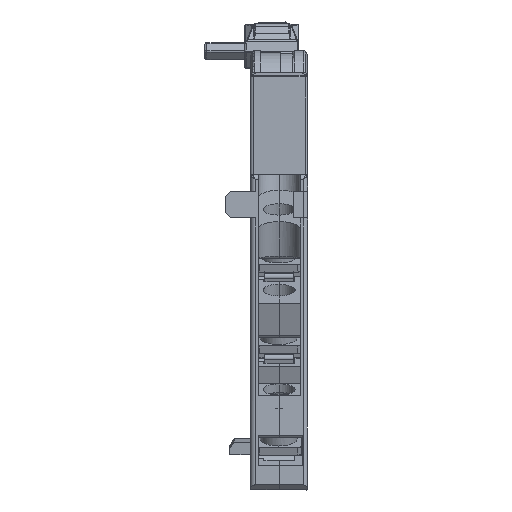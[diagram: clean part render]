
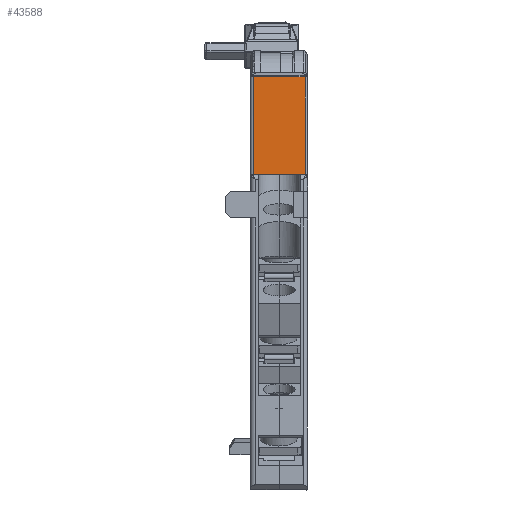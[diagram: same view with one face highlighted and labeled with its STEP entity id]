
A CAD part, front view. The second image highlights one B-rep face of the part: STEP entity #43588.
In plain terms, the highlighted planar face has unit normal (0, -1, 0) as drawn and (1, 0, 0) by its records, which use the part's own axes.
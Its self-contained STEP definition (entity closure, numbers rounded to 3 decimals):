
#799 = CARTESIAN_POINT ( 'NONE',  ( 64.355, 49.5, -27.578 ) ) ;
#1475 = LINE ( 'NONE', #55366, #24817 ) ;
#2052 = VERTEX_POINT ( 'NONE', #56118 ) ;
#2495 = CARTESIAN_POINT ( 'NONE',  ( 64.355, 64.856, -31.656 ) ) ;
#4331 = EDGE_CURVE ( 'NONE', #44131, #12284, #1475, .T. ) ;
#5529 = ORIENTED_EDGE ( 'NONE', *, *, #10718, .F. ) ;
#7066 = EDGE_CURVE ( 'NONE', #34011, #2052, #19280, .T. ) ;
#7268 = VECTOR ( 'NONE', #46601, 1000. ) ;
#8058 = CARTESIAN_POINT ( 'NONE',  ( 64.355, 64.856, -23.5 ) ) ;
#9347 = CARTESIAN_POINT ( 'NONE',  ( 64.355, 48.519, -27.578 ) ) ;
#10016 = EDGE_LOOP ( 'NONE', ( #36718, #5529, #57997, #49365, #21191, #33197 ) ) ;
#10718 = EDGE_CURVE ( 'NONE', #36913, #34011, #69066, .T. ) ;
#12284 = VERTEX_POINT ( 'NONE', #799 ) ;
#12784 = VECTOR ( 'NONE', #14039, 1000. ) ;
#13956 = VECTOR ( 'NONE', #18254, 1000. ) ;
#14039 = DIRECTION ( 'NONE',  ( 0., 0., -1. ) ) ;
#14842 = CARTESIAN_POINT ( 'NONE',  ( 64.355, 48.519, -23.5 ) ) ;
#16526 = DIRECTION ( 'NONE',  ( 0., 1., 0. ) ) ;
#16639 = EDGE_CURVE ( 'NONE', #2052, #44131, #50443, .T. ) ;
#18254 = DIRECTION ( 'NONE',  ( 0., -1., 0. ) ) ;
#18644 = CARTESIAN_POINT ( 'NONE',  ( 64.355, 48.519, -23.5 ) ) ;
#19280 = LINE ( 'NONE', #45877, #12784 ) ;
#19809 = PLANE ( 'NONE',  #51259 ) ;
#20504 = FACE_OUTER_BOUND ( 'NONE', #10016, .T. ) ;
#21191 = ORIENTED_EDGE ( 'NONE', *, *, #4331, .F. ) ;
#22471 = LINE ( 'NONE', #23502, #13956 ) ;
#23125 = VECTOR ( 'NONE', #16526, 1000. ) ;
#23502 = CARTESIAN_POINT ( 'NONE',  ( 64.355, 49.5, -27.578 ) ) ;
#23885 = DIRECTION ( 'NONE',  ( 0., 0., 1. ) ) ;
#24817 = VECTOR ( 'NONE', #23885, 1000. ) ;
#26095 = DIRECTION ( 'NONE',  ( 1., 0., 0. ) ) ;
#30665 = CARTESIAN_POINT ( 'NONE',  ( 64.355, 49.5, -14.28 ) ) ;
#33197 = ORIENTED_EDGE ( 'NONE', *, *, #16639, .F. ) ;
#34011 = VERTEX_POINT ( 'NONE', #8058 ) ;
#35418 = DIRECTION ( 'NONE',  ( 0., -1., 0. ) ) ;
#35698 = EDGE_CURVE ( 'NONE', #12284, #39413, #22471, .T. ) ;
#35916 = DIRECTION ( 'NONE',  ( 0., 1., 0. ) ) ;
#36718 = ORIENTED_EDGE ( 'NONE', *, *, #7066, .F. ) ;
#36913 = VERTEX_POINT ( 'NONE', #14842 ) ;
#38414 = VECTOR ( 'NONE', #35418, 1000. ) ;
#39413 = VERTEX_POINT ( 'NONE', #9347 ) ;
#43588 = ADVANCED_FACE ( 'NONE', ( #20504 ), #19809, .T. ) ;
#43852 = LINE ( 'NONE', #18644, #7268 ) ;
#44131 = VERTEX_POINT ( 'NONE', #48360 ) ;
#45877 = CARTESIAN_POINT ( 'NONE',  ( 64.355, 64.856, -23.5 ) ) ;
#46601 = DIRECTION ( 'NONE',  ( 0., 0., -1. ) ) ;
#48360 = CARTESIAN_POINT ( 'NONE',  ( 64.355, 49.5, -31.656 ) ) ;
#49365 = ORIENTED_EDGE ( 'NONE', *, *, #35698, .F. ) ;
#50443 = LINE ( 'NONE', #2495, #38414 ) ;
#51259 = AXIS2_PLACEMENT_3D ( 'NONE', #30665, #26095, #35916 ) ;
#55366 = CARTESIAN_POINT ( 'NONE',  ( 64.355, 49.5, -31.656 ) ) ;
#56118 = CARTESIAN_POINT ( 'NONE',  ( 64.355, 64.856, -31.656 ) ) ;
#57997 = ORIENTED_EDGE ( 'NONE', *, *, #58194, .T. ) ;
#58194 = EDGE_CURVE ( 'NONE', #36913, #39413, #43852, .T. ) ;
#64812 = CARTESIAN_POINT ( 'NONE',  ( 64.355, 48.519, -23.5 ) ) ;
#69066 = LINE ( 'NONE', #64812, #23125 ) ;
